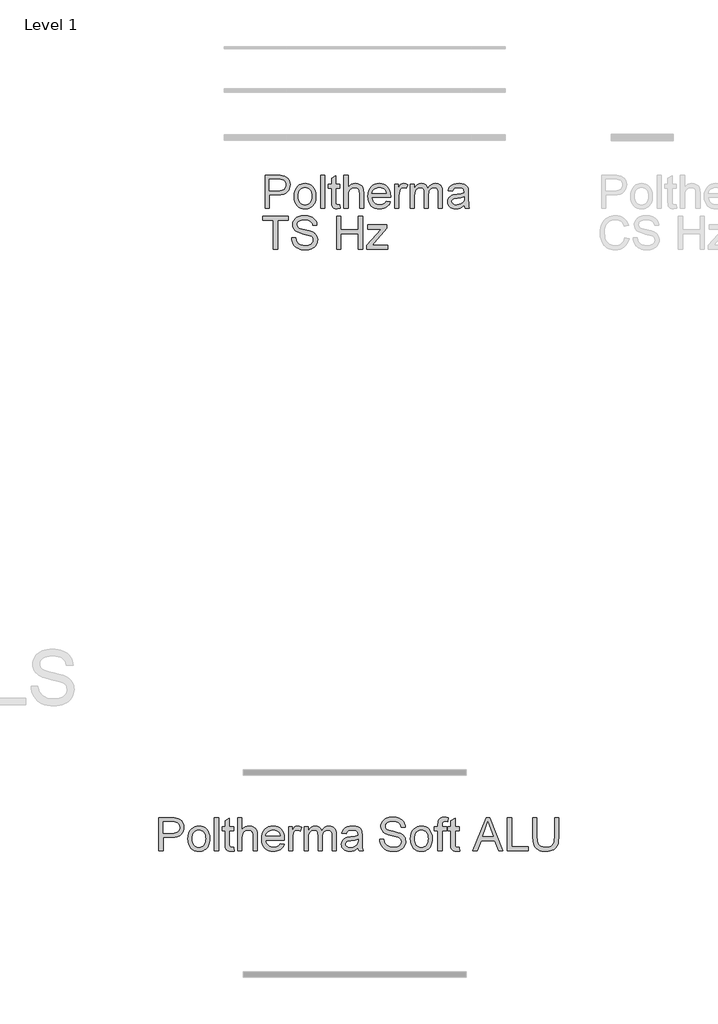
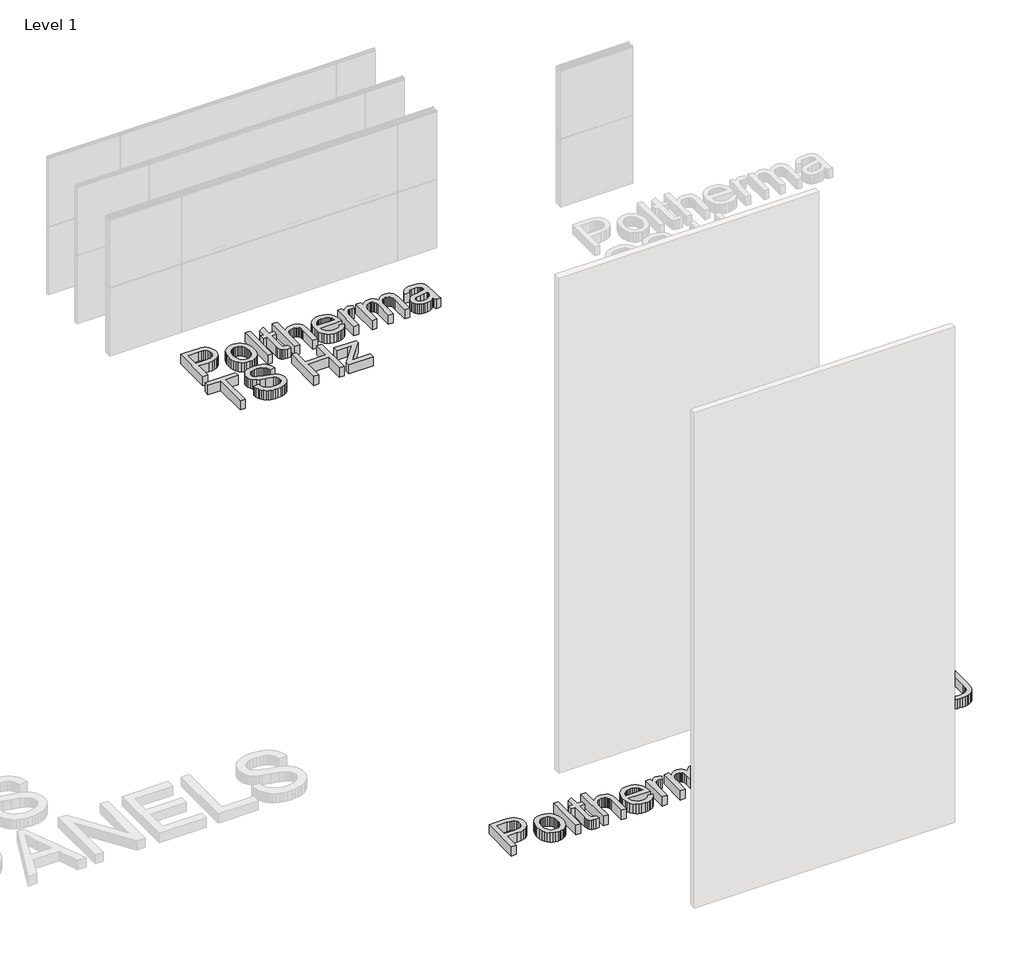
# One storey, part 10 of 27: 2 proxies.
"""IFC4 building model written with IfcOpenShell, lengths in millimetres."""

from ifc_helpers import new_model, si_unit, origin, origin_with_axes, place, context, project, spatial, polyline, outline, extrude, element, save

model = new_model("IFC4")

# Units and contexts
model_context = context("Model", 3, world=origin())
ifc_project = project(units=[si_unit("LENGTHUNIT", "METRE", prefix="MILLI")], contexts=[model_context])

# Site, building, storey
site = spatial("IfcSite", under=ifc_project)
building = spatial("IfcBuilding", under=site)
storey = spatial("IfcBuildingStorey", under=building, Name="Level 1", Elevation=0.0)

# Proxies
placement = place(None, origin())
element("IfcBuildingElementProxy", 1, Name="600mm Arial", ObjectType="600mm Arial", at=placement, inside=storey, context=model_context, shape_type="SweptSolid", body=[
    extrude(outline(polyline([(-11838.0389242, -19557.7938606), (-11838.0389242, -18967.0246299), (-11619.0966165, -18967.0246299), (-11568.1110396, -18968.4308799), (-11530.8273858, -18972.6496299), (-11491.4704146, -18983.1604472), (-11459.0725781, -19000.2698222), (-11432.9848377, -19024.7529953), (-11412.558155, -19057.3852068), (-11399.3610396, -19095.8767933), (-11394.9620011, -19137.9380914), (-11397.9322535, -19174.2031154), (-11406.8430108, -19207.5654953), (-11421.6942728, -19238.0252308), (-11442.4860396, -19265.5823222), (-11471.0302103, -19288.4248703), (-11509.1386838, -19304.740976), (-11556.8114603, -19314.5306395), (-11614.0485396, -19317.7938606), (-11764.1927704, -19317.7938606), (-11764.1927704, -19557.7938606), (-11838.0389242, -19557.7938606)]), holes=[polyline([(-11764.1927704, -19243.9477068), (-11609.7216165, -19243.9477068), (-11574.2047896, -19242.2529953), (-11544.2408473, -19237.1688606), (-11519.8297896, -19228.6953029), (-11500.9716165, -19216.8323222), (-11486.9001021, -19201.8954231), (-11476.8490204, -19184.2001106), (-11470.8183713, -19163.7463847), (-11468.808155, -19140.5342453), (-11473.5497415, -19107.3611683), (-11487.7745011, -19079.3803991), (-11509.7156069, -19058.3227068), (-11537.6062319, -19045.9188606), (-11566.0918088, -19042.1328029), (-11611.4523858, -19040.8707837), (-11764.1927704, -19040.8707837), (-11764.1927704, -19243.9477068)])]), origin_with_axes(), (0.0, 0.0, 1.0), 150.0),
    extrude(outline(polyline([(-11321.1158473, -19340.8707837), (-11317.1224579, -19284.6838847), (-11305.1422896, -19236.2674183), (-11285.1753425, -19195.6213847), (-11257.2216165, -19162.7457837), (-11229.0785877, -19141.7331635), (-11198.0148858, -19126.7241491), (-11164.0305108, -19117.7187404), (-11127.1254627, -19114.7169376), (-11086.3847776, -19118.3722861), (-11049.5473377, -19129.3383318), (-11016.613143, -19147.6150746), (-10987.5821934, -19173.2025145), (-10963.8877824, -19205.2352669), (-10946.9632031, -19242.8479472), (-10936.8084555, -19286.0405553), (-10933.4235396, -19334.8130914), (-10934.9199338, -19374.3413366), (-10939.4091165, -19409.4164568), (-10946.8910877, -19440.038452), (-10957.3658473, -19466.2073222), (-10970.7026862, -19488.810988), (-10986.7708954, -19508.7373703), (-11005.5704747, -19525.9864688), (-11027.1014242, -19540.5582837), (-11050.5254026, -19552.1373102), (-11075.0040684, -19560.4080433), (-11100.5374218, -19565.3704832), (-11127.1254627, -19567.0246299), (-11168.4610997, -19563.3828029), (-11205.6410877, -19552.4573222), (-11238.6654266, -19534.2481876), (-11267.5341165, -19508.7553991), (-11290.9761237, -19476.4116491), (-11307.7204146, -19437.6496299), (-11317.7669891, -19392.4693414), (-11321.1158473, -19340.8707837)]), holes=[polyline([(-11247.2696934, -19340.7265529), (-11245.1332752, -19376.545363), (-11238.7240204, -19407.5594856), (-11228.041929, -19433.7689207), (-11213.0870011, -19455.1736683), (-11194.8958954, -19471.8007717), (-11174.5052704, -19483.6772741), (-11151.9151261, -19490.8031755), (-11127.1254627, -19493.178476), (-11102.4620011, -19490.7896539), (-11079.9620011, -19483.6231876), (-11059.6254627, -19471.679077), (-11041.4523858, -19454.9573222), (-11026.4974579, -19433.3407356), (-11015.8153665, -19406.7121299), (-11009.4061117, -19375.0715049), (-11007.2696934, -19338.4188606), (-11009.4196333, -19303.7358678), (-11015.8694531, -19273.5330433), (-11026.6191526, -19247.8103871), (-11041.6687319, -19226.5678991), (-11059.909417, -19209.9407957), (-11080.2324338, -19198.0642933), (-11102.6377824, -19190.9383919), (-11127.1254627, -19188.5630914), (-11151.9151261, -19190.9293775), (-11174.5052704, -19198.0282356), (-11194.8958954, -19209.8596659), (-11213.0870011, -19226.4236683), (-11228.041929, -19247.765315), (-11238.7240204, -19273.9296779), (-11245.1332752, -19304.9167573), (-11247.2696934, -19340.7265529)])]), origin_with_axes(), (0.0, 0.0, 1.0), 150.0),
    extrude(outline(polyline([(-10850.3466165, -19557.7938606), (-10850.3466165, -18967.0246299), (-10776.5004627, -18967.0246299), (-10776.5004627, -19557.7938606), (-10850.3466165, -19557.7938606)])), origin_with_axes(), (0.0, 0.0, 1.0), 150.0),
    extrude(outline(polyline([(-10508.808155, -19496.2073222), (-10499.5773858, -19559.9573222), (-10554.8177704, -19567.0246299), (-10590.2624819, -19563.959726), (-10616.6927704, -19554.7650145), (-10635.370655, -19540.5943414), (-10647.558155, -19522.6015529), (-10654.2648858, -19491.7001106), (-10656.5004627, -19438.803476), (-10656.5004627, -19197.7938606), (-10711.8850781, -19197.7938606), (-10711.8850781, -19123.9477068), (-10656.5004627, -19123.9477068), (-10656.5004627, -19018.5150145), (-10582.6543088, -18975.1015529), (-10582.6543088, -19123.9477068), (-10508.808155, -19123.9477068), (-10508.808155, -19197.7938606), (-10582.6543088, -19197.7938606), (-10582.6543088, -19436.6400145), (-10578.7600781, -19474.7169376), (-10566.1398858, -19488.2025145), (-10555.4848377, -19491.9344856), (-10540.9716165, -19493.178476), (-10508.808155, -19496.2073222)])), origin_with_axes(), (0.0, 0.0, 1.0), 150.0),
    extrude(outline(polyline([(-10434.9620011, -19557.7938606), (-10434.9620011, -18967.0246299), (-10361.1158473, -18967.0246299), (-10361.1158473, -19184.2361683), (-10333.9914483, -19153.8215049), (-10303.5317127, -19132.0967453), (-10269.7366406, -19119.0618895), (-10232.6062319, -19114.7169376), (-10188.0028665, -19119.4585241), (-10149.6735396, -19133.6832837), (-10119.4932511, -19156.2734279), (-10099.3370011, -19186.1111683), (-10087.9788281, -19227.1087645), (-10084.1927704, -19283.178476), (-10084.1927704, -19557.7938606), (-10158.0389242, -19557.7938606), (-10158.0389242, -19290.8227068), (-10159.5082752, -19265.8888126), (-10163.9163281, -19244.5967453), (-10171.2630829, -19226.9465049), (-10181.5485396, -19212.9380914), (-10194.5293088, -19202.2740289), (-10209.9620011, -19194.6568414), (-10227.8466165, -19190.0865289), (-10248.183155, -19188.5630914), (-10279.3910877, -19192.6736683), (-10308.6879627, -19205.0053991), (-10332.9547896, -19224.3683799), (-10349.0725781, -19249.5727068), (-10358.10503, -19283.0703029), (-10361.1158473, -19327.3130914), (-10361.1158473, -19557.7938606), (-10434.9620011, -19557.7938606)])), origin_with_axes(), (0.0, 0.0, 1.0), 150.0),
    extrude(outline(polyline([(-9678.9043088, -19428.5630914), (-9606.5004627, -19437.7938606), (-9617.6017247, -19466.7932597), (-9632.5882031, -19492.3491491), (-9651.4598978, -19514.4615289), (-9674.2168088, -19533.1303991), (-9700.6245612, -19547.9591251), (-9730.44878, -19558.5510722), (-9763.6894651, -19564.9062404), (-9800.3466165, -19567.0246299), (-9846.166929, -19563.3692813), (-9886.9932511, -19552.4032356), (-9922.8255829, -19534.1264928), (-9953.6639242, -19508.5390529), (-9978.4626021, -19476.3530553), (-9996.1759434, -19438.2806395), (-10006.8039483, -19394.3218053), (-10010.3466165, -19344.4765529), (-10006.7678906, -19292.9410962), (-9996.0317127, -19247.5174183), (-9978.1380829, -19208.2055193), (-9953.0870011, -19175.0053991), (-9922.3297896, -19148.6291972), (-9887.3177704, -19129.7890529), (-9848.0509434, -19118.4849664), (-9804.5293088, -19114.7169376), (-9762.409417, -19118.475952), (-9724.3189723, -19129.7529953), (-9690.2579747, -19148.5480674), (-9660.2264242, -19174.8611683), (-9635.7117007, -19207.9891731), (-9618.2011838, -19247.2289568), (-9607.6948737, -19292.5805193), (-9604.1927704, -19344.0438606), (-9604.6254627, -19363.9477068), (-9936.5004627, -19363.9477068), (-9932.2231189, -19393.4158558), (-9923.7180108, -19419.2241491), (-9910.9851382, -19441.3725866), (-9894.0245011, -19459.8611683), (-9873.7735997, -19474.4374904), (-9851.1699338, -19484.8491491), (-9826.2135035, -19491.0961443), (-9798.9043088, -19493.178476), (-9759.6014242, -19489.3203029), (-9726.5004627, -19477.7457837), (-9699.6014242, -19457.7337645), (-9678.9043088, -19428.5630914)]), holes=[polyline([(-9936.5004627, -19290.1015529), (-9678.0389242, -19290.1015529), (-9688.026905, -19251.0871299), (-9696.6176502, -19235.7445818), (-9707.6062319, -19223.178476), (-9727.7444531, -19208.0342453), (-9750.6591165, -19197.2169376), (-9776.3502223, -19190.7265529), (-9804.8177704, -19188.5630914), (-9830.783816, -19190.2893534), (-9854.5954146, -19195.4681395), (-9876.252566, -19204.0994496), (-9895.7552704, -19216.1832837), (-9912.1209555, -19231.1607477), (-9924.3670492, -19248.4729472), (-9932.4935516, -19268.1198823), (-9936.5004627, -19290.1015529)])]), origin_with_axes(), (0.0, 0.0, 1.0), 150.0),
    extrude(outline(polyline([(-9530.3466165, -19557.7938606), (-9530.3466165, -19123.9477068), (-9465.7312319, -19123.9477068), (-9465.7312319, -19188.1303991), (-9441.8610396, -19150.9188606), (-9419.8658473, -19128.9957837), (-9397.7985396, -19118.2866491), (-9373.7120011, -19114.7169376), (-9336.933155, -19120.4140529), (-9299.5773858, -19137.5053991), (-9324.2408473, -19203.7073222), (-9350.2023858, -19192.3491491), (-9376.1639242, -19188.5630914), (-9398.2132031, -19192.2049183), (-9417.9187319, -19203.1303991), (-9433.8382031, -19220.5102068), (-9444.5293088, -19243.5150145), (-9453.5076742, -19284.7650145), (-9456.5004627, -19329.7650145), (-9456.5004627, -19557.7938606), (-9530.3466165, -19557.7938606)])), origin_with_axes(), (0.0, 0.0, 1.0), 150.0),
    extrude(outline(polyline([(-9253.4235396, -19557.7938606), (-9253.4235396, -19123.9477068), (-9179.5773858, -19123.9477068), (-9179.5773858, -19195.3419376), (-9157.3658473, -19162.5474664), (-9128.808155, -19136.8563606), (-9094.8778665, -19120.2517933), (-9056.5485396, -19114.7169376), (-9015.4788281, -19120.3599664), (-8997.9998617, -19127.4137525), (-8982.558155, -19137.2890529), (-8957.9668088, -19164.3864087), (-8941.8850781, -19200.5342453), (-8914.9680108, -19162.9891731), (-8884.2648858, -19136.1712645), (-8849.7757031, -19120.0805193), (-8811.5004627, -19114.7169376), (-8781.9376622, -19116.9480073), (-8755.9896454, -19123.6412164), (-8733.6564122, -19134.796565), (-8714.9379627, -19150.4140529), (-8700.1407872, -19170.6739688), (-8689.5713761, -19195.756601), (-8683.2297295, -19225.6619496), (-8681.1158473, -19260.3900145), (-8681.1158473, -19557.7938606), (-8754.9620011, -19557.7938606), (-8754.9620011, -19292.1207837), (-8756.6747415, -19255.287851), (-8761.8129627, -19230.4621299), (-8771.4403665, -19213.4609279), (-8786.620655, -19200.1015529), (-8806.1458954, -19191.4477068), (-8828.808155, -19188.5630914), (-8849.7351382, -19190.4110481), (-8868.8141646, -19195.9549183), (-8886.0452343, -19205.194702), (-8901.4283473, -19218.1303991), (-8914.0800901, -19235.1406154), (-8923.1170492, -19256.6039568), (-8928.5392247, -19282.5204231), (-8930.3466165, -19312.8900145), (-8930.3466165, -19557.7938606), (-9004.1927704, -19557.7938606), (-9004.1927704, -19283.8996299), (-9008.4656069, -19242.1448222), (-9021.2841165, -19212.3611683), (-9031.1954747, -19201.9495097), (-9043.8382031, -19194.5126106), (-9059.2123016, -19190.0504712), (-9077.3177704, -19188.5630914), (-9105.7672896, -19192.5294376), (-9131.9812319, -19204.428476), (-9153.6158473, -19223.9717453), (-9168.3273858, -19250.8707837), (-9176.7648858, -19288.1904953), (-9179.5773858, -19338.9957837), (-9179.5773858, -19557.7938606), (-9253.4235396, -19557.7938606)])), origin_with_axes(), (0.0, 0.0, 1.0), 150.0),
    extrude(outline(polyline([(-8293.4235396, -19502.4092453), (-8328.7059915, -19532.6616491), (-8365.0341165, -19552.4573222), (-8403.2372415, -19563.3828029), (-8444.1446934, -19567.0246299), (-8477.0248016, -19564.8341251), (-8505.8574338, -19558.2626106), (-8530.6425901, -19547.3100866), (-8551.3802704, -19531.9765529), (-8567.7549699, -19513.2355674), (-8579.4511838, -19492.0606876), (-8586.4689122, -19468.4519135), (-8588.808155, -19442.4092453), (-8585.2745011, -19411.7962645), (-8574.6735396, -19383.9957837), (-8558.3213761, -19360.1977068), (-8537.5341165, -19341.5919376), (-8513.10503, -19327.5294376), (-8485.8273858, -19317.3611683), (-8421.933155, -19306.2553991), (-8346.4283473, -19294.5727068), (-8293.8562319, -19280.8707837), (-8293.4235396, -19264.428476), (-8298.5076742, -19231.4717453), (-8304.8628425, -19219.2662164), (-8313.7600781, -19209.9092453), (-8329.1386838, -19200.5703029), (-8347.870655, -19193.8996299), (-8395.3946934, -19188.5630914), (-8439.3850781, -19192.1147741), (-8470.1062319, -19202.7698222), (-8491.0557511, -19222.475351), (-8505.7312319, -19253.178476), (-8579.5773858, -19243.9477068), (-8566.7588761, -19203.5630914), (-8547.6302704, -19171.8323222), (-8520.4067127, -19147.5654953), (-8483.3033473, -19129.5727068), (-8437.9247415, -19118.4308799), (-8385.8754627, -19114.7169376), (-8335.9535877, -19117.9981876), (-8296.3802704, -19127.8419376), (-8266.54253, -19142.6436203), (-8245.8273858, -19160.7986683), (-8232.089405, -19183.2445818), (-8223.183155, -19210.9188606), (-8219.5773858, -19275.5342453), (-8219.5773858, -19367.4092453), (-8215.8273858, -19495.7025145), (-8210.2745011, -19527.4152549), (-8201.1158473, -19557.7938606), (-8274.9620011, -19557.7938606), (-8286.7889242, -19532.1207837), (-8293.4235396, -19502.4092453)]), holes=[polyline([(-8293.4235396, -19354.7169376), (-8343.0389242, -19367.0126106), (-8412.558155, -19377.3611683), (-8476.0918088, -19389.3323222), (-8492.6242608, -19397.5174183), (-8504.8658473, -19408.803476), (-8512.4379627, -19422.3251106), (-8514.9620011, -19437.2169376), (-8509.4632031, -19459.1760722), (-8492.9668088, -19477.1688606), (-8465.8333954, -19489.1760722), (-8428.4235396, -19493.178476), (-8388.7600781, -19488.7614087), (-8353.7120011, -19475.5102068), (-8325.2985396, -19455.9849664), (-8305.5389242, -19432.7457837), (-8296.776905, -19408.803476), (-8293.8562319, -19375.6303991), (-8293.4235396, -19354.7169376)])]), origin_with_axes(), (0.0, 0.0, 1.0), 150.0),
    extrude(outline(polyline([(-11690.3466165, -20287.0246299), (-11690.3466165, -19770.1015529), (-11884.1927704, -19770.1015529), (-11884.1927704, -19696.2553991), (-11422.6543088, -19696.2553991), (-11422.6543088, -19770.1015529), (-11616.5004627, -19770.1015529), (-11616.5004627, -20287.0246299), (-11690.3466165, -20287.0246299)])), origin_with_axes(), (0.0, 0.0, 1.0), 150.0),
    extrude(outline(polyline([(-11367.2696934, -20083.9477068), (-11293.4235396, -20083.9477068), (-11284.9499819, -20124.9272741), (-11269.6254627, -20157.865976), (-11245.7192127, -20184.0078029), (-11211.5004627, -20204.5967453), (-11169.6735396, -20217.9561203), (-11122.9427704, -20222.4092453), (-11081.8009434, -20219.037851), (-11045.7793088, -20208.9236683), (-11016.5906069, -20192.9140529), (-10995.9475781, -20171.8563606), (-10983.6699338, -20147.6796779), (-10979.5773858, -20122.3130914), (-10982.6422896, -20097.5955433), (-10991.8370011, -20076.2313606), (-11010.5148858, -20058.0041972), (-11042.0293088, -20042.6977068), (-11149.5533473, -20014.5005914), (-11220.13628, -19995.8407356), (-11265.2985396, -19978.0823222), (-11302.0593569, -19953.2385722), (-11328.1110396, -19923.1303991), (-11343.6338761, -19888.4068414), (-11348.808155, -19849.7169376), (-11347.2080949, -19827.7262525), (-11342.4079146, -19806.4657356), (-11334.4076141, -19785.9353871), (-11323.2071934, -19766.1352068), (-11308.9328545, -19747.8719856), (-11291.7107992, -19731.9525145), (-11271.5410276, -19718.3767933), (-11248.4235396, -19707.1448222), (-11196.464405, -19692.0546779), (-11138.9523858, -19687.0246299), (-11076.6446934, -19692.2890529), (-11022.1254627, -19708.0823222), (-10998.2732992, -19719.8461443), (-10977.3418088, -19734.0799183), (-10959.3309915, -19750.7836443), (-10944.2408473, -19769.9573222), (-10932.1885636, -19791.0420578), (-10923.2913281, -19813.4789568), (-10917.5491406, -19837.2680193), (-10914.9620011, -19862.4092453), (-10988.808155, -19862.4092453), (-10993.7480588, -19838.8455433), (-11002.3658473, -19818.3467453), (-11014.6615204, -19800.912851), (-11030.6350781, -19786.5438606), (-11050.5839963, -19775.3118895), (-11074.8057511, -19767.2890529), (-11103.3003425, -19762.475351), (-11136.0677704, -19760.8707837), (-11169.8808713, -19762.4573222), (-11198.7720973, -19767.2169376), (-11222.7414483, -19775.1496299), (-11241.7889242, -19786.2553991), (-11256.3021454, -19799.6057597), (-11266.6687319, -19814.272226), (-11272.8886838, -19830.2547981), (-11274.9620011, -19847.553476), (-11269.0845973, -19875.9308799), (-11251.4523858, -19898.7553991), (-11235.2624819, -19908.9056395), (-11209.7696934, -19919.1640529), (-11130.8754627, -19940.0053991), (-11049.4571934, -19959.8010722), (-11000.2023858, -19977.0727068), (-10958.10503, -20003.8635722), (-10941.8294891, -20019.6117693), (-10928.7360396, -20036.928476), (-10918.6714362, -20055.7235481), (-10911.4824338, -20075.9068414), (-10905.7312319, -20120.4380914), (-10907.3853785, -20143.5375505), (-10912.3478184, -20165.9609279), (-10920.6185516, -20187.7082236), (-10932.1975781, -20208.7794376), (-10946.8820733, -20228.3587645), (-10964.4692127, -20245.6303991), (-10984.9589963, -20260.5943414), (-11008.3514242, -20273.2505914), (-11033.9659074, -20283.3151948), (-11061.1218569, -20290.5041972), (-11120.058155, -20296.2553991), (-11157.8330949, -20294.7049183), (-11192.4079146, -20290.053476), (-11223.7826141, -20282.3010722), (-11251.9571934, -20271.4477068), (-11277.1029266, -20257.475351), (-11299.3910877, -20240.365976), (-11318.8216766, -20220.1195818), (-11335.3946934, -20196.7361683), (-11348.745054, -20170.9729472), (-11358.5076742, -20143.5871299), (-11364.682554, -20114.5787164), (-11367.2696934, -20083.9477068)])), origin_with_axes(), (0.0, 0.0, 1.0), 150.0),
    extrude(outline(polyline([(-10564.1927704, -20287.0246299), (-10564.1927704, -19696.2553991), (-10490.3466165, -19696.2553991), (-10490.3466165, -19936.2553991), (-10176.5004627, -19936.2553991), (-10176.5004627, -19696.2553991), (-10102.6543088, -19696.2553991), (-10102.6543088, -20287.0246299), (-10176.5004627, -20287.0246299), (-10176.5004627, -20010.1015529), (-10490.3466165, -20010.1015529), (-10490.3466165, -20287.0246299), (-10564.1927704, -20287.0246299)])), origin_with_axes(), (0.0, 0.0, 1.0), 150.0),
    extrude(outline(polyline([(-10028.808155, -20287.0246299), (-10028.808155, -20217.5053991), (-9773.9523858, -19927.0246299), (-9849.3850781, -19927.0246299), (-10010.3466165, -19927.0246299), (-10010.3466165, -19853.178476), (-9668.808155, -19853.178476), (-9668.808155, -19915.9188606), (-9894.8177704, -20173.6592453), (-9929.433155, -20213.178476), (-9844.0485396, -20213.178476), (-9659.5773858, -20213.178476), (-9659.5773858, -20287.0246299), (-10028.808155, -20287.0246299)])), origin_with_axes(), (0.0, 0.0, 1.0), 150.0),
])
element("IfcBuildingElementProxy", 2, Name="600mm Arial", ObjectType="600mm Arial", at=placement, inside=storey, context=model_context, shape_type="SweptSolid", body=[
    extrude(outline(polyline([(-13728.8158486, -30994.6855299), (-13728.8158486, -30403.9162991), (-13509.8735409, -30403.9162991), (-13458.8879639, -30405.3225491), (-13421.6043101, -30409.5412991), (-13382.2473389, -30420.0521164), (-13349.8495024, -30437.1614914), (-13323.761762, -30461.6446645), (-13303.3350793, -30494.276876), (-13290.1379639, -30532.7684626), (-13285.7389255, -30574.8297606), (-13288.7091779, -30611.0947847), (-13297.6199351, -30644.4571645), (-13312.4711971, -30674.9169001), (-13333.2629639, -30702.4739914), (-13361.8071346, -30725.3165395), (-13399.9156082, -30741.6326453), (-13447.5883846, -30751.4223087), (-13504.8254639, -30754.6855299), (-13654.9696947, -30754.6855299), (-13654.9696947, -30994.6855299), (-13728.8158486, -30994.6855299)]), holes=[polyline([(-13654.9696947, -30680.839376), (-13500.4985409, -30680.839376), (-13464.9817139, -30679.1446645), (-13435.0177716, -30674.0605299), (-13410.6067139, -30665.5869722), (-13391.7485409, -30653.7239914), (-13377.6770264, -30638.7870924), (-13367.6259447, -30621.0917799), (-13361.5952957, -30600.6380539), (-13359.5850793, -30577.4259145), (-13364.3266659, -30544.2528376), (-13378.5514255, -30516.2720683), (-13400.4925312, -30495.214376), (-13428.3831562, -30482.8105299), (-13456.8687332, -30479.0244722), (-13502.2293101, -30477.762453), (-13654.9696947, -30477.762453), (-13654.9696947, -30680.839376)])]), origin_with_axes(), (0.0, 0.0, 1.0), 150.0),
    extrude(outline(polyline([(-13211.8927716, -30777.762453), (-13207.8993822, -30721.5755539), (-13195.9192139, -30673.1590876), (-13175.9522668, -30632.5130539), (-13147.9985409, -30599.637453), (-13119.855512, -30578.6248328), (-13088.7918101, -30563.6158183), (-13054.8074351, -30554.6104097), (-13017.902387, -30551.6086068), (-12977.1617019, -30555.2639554), (-12940.324262, -30566.230001), (-12907.3900673, -30584.5067438), (-12878.3591178, -30610.0941837), (-12854.6647067, -30642.1269361), (-12837.7401274, -30679.7396164), (-12827.5853798, -30722.9322246), (-12824.2004639, -30771.7047606), (-12825.6968582, -30811.2330058), (-12830.1860409, -30846.308126), (-12837.668012, -30876.9301212), (-12848.1427716, -30903.0989914), (-12861.4796106, -30925.7026573), (-12877.5478197, -30945.6290395), (-12896.347399, -30962.8781381), (-12917.8783486, -30977.449953), (-12941.3023269, -30989.0289794), (-12965.7809928, -30997.2997126), (-12991.3143461, -31002.2621525), (-13017.902387, -31003.9162991), (-13059.238024, -31000.2744722), (-13096.418012, -30989.3489914), (-13129.442351, -30971.1398568), (-13158.3110409, -30945.6470683), (-13181.7530481, -30913.3033183), (-13198.4973389, -30874.5412991), (-13208.5439135, -30829.3610106), (-13211.8927716, -30777.762453)]), holes=[polyline([(-13138.0466178, -30777.6182222), (-13135.9101995, -30813.4370323), (-13129.5009447, -30844.4511549), (-13118.8188534, -30870.66059), (-13103.8639255, -30892.0653376), (-13085.6728197, -30908.6924409), (-13065.2821947, -30920.5689433), (-13042.6920505, -30927.6948448), (-13017.902387, -30930.0701453), (-12993.2389255, -30927.6813231), (-12970.7389255, -30920.5148568), (-12950.402387, -30908.5707462), (-12932.2293101, -30891.8489914), (-12917.2743822, -30870.2324049), (-12906.5922909, -30843.6037991), (-12900.1830361, -30811.9631741), (-12898.0466178, -30775.3105299), (-12900.1965577, -30740.6275371), (-12906.6463774, -30710.4247126), (-12917.3960769, -30684.7020563), (-12932.4456562, -30663.4595683), (-12950.6863413, -30646.832465), (-12971.0093582, -30634.9559626), (-12993.4147067, -30627.8300611), (-13017.902387, -30625.4547606), (-13042.6920505, -30627.8210467), (-13065.2821947, -30634.9199049), (-13085.6728197, -30646.7513352), (-13103.8639255, -30663.3153376), (-13118.8188534, -30684.6569842), (-13129.5009447, -30710.8213472), (-13135.9101995, -30741.8084265), (-13138.0466178, -30777.6182222)])]), origin_with_axes(), (0.0, 0.0, 1.0), 150.0),
    extrude(outline(polyline([(-12741.1235409, -30994.6855299), (-12741.1235409, -30403.9162991), (-12667.277387, -30403.9162991), (-12667.277387, -30994.6855299), (-12741.1235409, -30994.6855299)])), origin_with_axes(), (0.0, 0.0, 1.0), 150.0),
    extrude(outline(polyline([(-12399.5850793, -30933.0989914), (-12390.3543101, -30996.8489914), (-12445.5946947, -31003.9162991), (-12481.0394062, -31000.8513953), (-12507.4696947, -30991.6566837), (-12526.1475793, -30977.4860106), (-12538.3350793, -30959.4932222), (-12545.0418101, -30928.5917799), (-12547.277387, -30875.6951453), (-12547.277387, -30634.6855299), (-12602.6620024, -30634.6855299), (-12602.6620024, -30560.839376), (-12547.277387, -30560.839376), (-12547.277387, -30455.4066837), (-12473.4312332, -30411.9932222), (-12473.4312332, -30560.839376), (-12399.5850793, -30560.839376), (-12399.5850793, -30634.6855299), (-12473.4312332, -30634.6855299), (-12473.4312332, -30873.5316837), (-12469.5370024, -30911.6086068), (-12456.9168101, -30925.0941837), (-12446.261762, -30928.8261549), (-12431.7485409, -30930.0701453), (-12399.5850793, -30933.0989914)])), origin_with_axes(), (0.0, 0.0, 1.0), 150.0),
    extrude(outline(polyline([(-12325.7389255, -30994.6855299), (-12325.7389255, -30403.9162991), (-12251.8927716, -30403.9162991), (-12251.8927716, -30621.1278376), (-12224.7683726, -30590.7131741), (-12194.308637, -30568.9884145), (-12160.5135649, -30555.9535587), (-12123.3831562, -30551.6086068), (-12078.7797909, -30556.3501933), (-12040.4504639, -30570.574953), (-12010.2701755, -30593.1650972), (-11990.1139255, -30623.0028376), (-11978.7557524, -30664.0004337), (-11974.9696947, -30720.0701453), (-11974.9696947, -30994.6855299), (-12048.8158486, -30994.6855299), (-12048.8158486, -30727.714376), (-12050.2851995, -30702.7804818), (-12054.6932524, -30681.4884145), (-12062.0400072, -30663.8381741), (-12072.3254639, -30649.8297606), (-12085.3062332, -30639.1656981), (-12100.7389255, -30631.5485106), (-12118.6235409, -30626.9781981), (-12138.9600793, -30625.4547606), (-12170.168012, -30629.5653376), (-12199.464887, -30641.8970683), (-12223.7317139, -30661.2600491), (-12239.8495024, -30686.464376), (-12248.8819543, -30719.9619722), (-12251.8927716, -30764.2047606), (-12251.8927716, -30994.6855299), (-12325.7389255, -30994.6855299)])), origin_with_axes(), (0.0, 0.0, 1.0), 150.0),
    extrude(outline(polyline([(-11569.6812332, -30865.4547606), (-11497.277387, -30874.6855299), (-11508.378649, -30903.6849289), (-11523.3651274, -30929.2408183), (-11542.2368221, -30951.3531981), (-11564.9937332, -30970.0220683), (-11591.4014856, -30984.8507943), (-11621.2257043, -30995.4427414), (-11654.4663894, -31001.7979097), (-11691.1235409, -31003.9162991), (-11736.9438534, -31000.2609506), (-11777.7701755, -30989.2949049), (-11813.6025072, -30971.0181621), (-11844.4408486, -30945.4307222), (-11869.2395264, -30913.2447246), (-11886.9528678, -30875.1723087), (-11897.5808726, -30831.2134746), (-11901.1235409, -30781.3682222), (-11897.5448149, -30729.8327655), (-11886.808637, -30684.4090876), (-11868.9150072, -30645.0971885), (-11843.8639255, -30611.8970683), (-11813.1067139, -30585.5208664), (-11778.0946947, -30566.6807222), (-11738.8278678, -30555.3766356), (-11695.3062332, -30551.6086068), (-11653.1863413, -30555.3676212), (-11615.0958966, -30566.6446645), (-11581.034899, -30585.4397366), (-11551.0033486, -30611.7528376), (-11526.488625, -30644.8808424), (-11508.9781082, -30684.120626), (-11498.4717981, -30729.4721885), (-11494.9696947, -30780.9355299), (-11495.402387, -30800.839376), (-11827.277387, -30800.839376), (-11823.0000433, -30830.3075251), (-11814.4949351, -30856.1158183), (-11801.7620625, -30878.2642558), (-11784.8014255, -30896.7528376), (-11764.550524, -30911.3291597), (-11741.9468582, -30921.7408183), (-11716.9904279, -30927.9878135), (-11689.6812332, -30930.0701453), (-11650.3783486, -30926.2119722), (-11617.277387, -30914.637453), (-11590.3783486, -30894.6254337), (-11569.6812332, -30865.4547606)]), holes=[polyline([(-11827.277387, -30726.9932222), (-11568.8158486, -30726.9932222), (-11578.8038293, -30687.9787991), (-11587.3945745, -30672.636251), (-11598.3831562, -30660.0701453), (-11618.5213774, -30644.9259145), (-11641.4360409, -30634.1086068), (-11667.1271466, -30627.6182222), (-11695.5946947, -30625.4547606), (-11721.5607404, -30627.1810227), (-11745.3723389, -30632.3598087), (-11767.0294904, -30640.9911188), (-11786.5321947, -30653.074953), (-11802.8978798, -30668.0524169), (-11815.1439736, -30685.3646164), (-11823.270476, -30705.0115515), (-11827.277387, -30726.9932222)])]), origin_with_axes(), (0.0, 0.0, 1.0), 150.0),
    extrude(outline(polyline([(-11421.1235409, -30994.6855299), (-11421.1235409, -30560.839376), (-11356.5081562, -30560.839376), (-11356.5081562, -30625.0220683), (-11332.6379639, -30587.8105299), (-11310.6427716, -30565.887453), (-11288.5754639, -30555.1783183), (-11264.4889255, -30551.6086068), (-11227.7100793, -30557.3057222), (-11190.3543101, -30574.3970683), (-11215.0177716, -30640.5989914), (-11240.9793101, -30629.2408183), (-11266.9408486, -30625.4547606), (-11288.9901274, -30629.0965876), (-11308.6956562, -30640.0220683), (-11324.6151274, -30657.401876), (-11335.3062332, -30680.4066837), (-11344.2845986, -30721.6566837), (-11347.277387, -30766.6566837), (-11347.277387, -30994.6855299), (-11421.1235409, -30994.6855299)])), origin_with_axes(), (0.0, 0.0, 1.0), 150.0),
    extrude(outline(polyline([(-11144.2004639, -30994.6855299), (-11144.2004639, -30560.839376), (-11070.3543101, -30560.839376), (-11070.3543101, -30632.2336068), (-11048.1427716, -30599.4391356), (-11019.5850793, -30573.7480299), (-10985.6547909, -30557.1434626), (-10947.3254639, -30551.6086068), (-10906.2557524, -30557.2516356), (-10888.7767861, -30564.3054217), (-10873.3350793, -30574.1807222), (-10848.7437332, -30601.278078), (-10832.6620024, -30637.4259145), (-10805.7449351, -30599.8808424), (-10775.0418101, -30573.0629337), (-10740.5526274, -30556.9721885), (-10702.277387, -30551.6086068), (-10672.7145865, -30553.8396765), (-10646.7665697, -30560.5328856), (-10624.4333365, -30571.6882342), (-10605.714887, -30587.3057222), (-10590.9177115, -30607.5656381), (-10580.3483005, -30632.6482703), (-10574.0066538, -30662.5536188), (-10571.8927716, -30697.2816837), (-10571.8927716, -30994.6855299), (-10645.7389255, -30994.6855299), (-10645.7389255, -30729.012453), (-10647.4516659, -30692.1795203), (-10652.589887, -30667.3537991), (-10662.2172909, -30650.3525972), (-10677.3975793, -30636.9932222), (-10696.9228197, -30628.339376), (-10719.5850793, -30625.4547606), (-10740.5120625, -30627.3027174), (-10759.5910889, -30632.8465876), (-10776.8221586, -30642.0863712), (-10792.2052716, -30655.0220683), (-10804.8570144, -30672.0322847), (-10813.8939736, -30693.495626), (-10819.316149, -30719.4120924), (-10821.1235409, -30749.7816837), (-10821.1235409, -30994.6855299), (-10894.9696947, -30994.6855299), (-10894.9696947, -30720.7912991), (-10899.2425312, -30679.0364914), (-10912.0610409, -30649.2528376), (-10921.972399, -30638.8411789), (-10934.6151274, -30631.4042799), (-10949.989226, -30626.9421405), (-10968.0946947, -30625.4547606), (-10996.5442139, -30629.4211068), (-11022.7581562, -30641.3201453), (-11044.3927716, -30660.8634145), (-11059.1043101, -30687.762453), (-11067.5418101, -30725.0821645), (-11070.3543101, -30775.887453), (-11070.3543101, -30994.6855299), (-11144.2004639, -30994.6855299)])), origin_with_axes(), (0.0, 0.0, 1.0), 150.0),
    extrude(outline(polyline([(-10184.2004639, -30939.3009145), (-10219.4829159, -30969.5533183), (-10255.8110409, -30989.3489914), (-10294.0141659, -31000.2744722), (-10334.9216178, -31003.9162991), (-10367.801726, -31001.7257943), (-10396.6343582, -30995.1542799), (-10421.4195144, -30984.2017558), (-10442.1571947, -30968.8682222), (-10458.5318942, -30950.1272366), (-10470.2281082, -30928.9523568), (-10477.2458365, -30905.3435828), (-10479.5850793, -30879.3009145), (-10476.0514255, -30848.6879337), (-10465.4504639, -30820.887453), (-10449.0983005, -30797.089376), (-10428.3110409, -30778.4836068), (-10403.8819543, -30764.4211068), (-10376.6043101, -30754.2528376), (-10312.7100793, -30743.1470683), (-10237.2052716, -30731.464376), (-10184.6331562, -30717.762453), (-10184.2004639, -30701.3201453), (-10189.2845986, -30668.3634145), (-10195.6397668, -30656.1578856), (-10204.5370024, -30646.8009145), (-10219.9156082, -30637.4619722), (-10238.6475793, -30630.7912991), (-10286.1716178, -30625.4547606), (-10330.1620024, -30629.0064433), (-10360.8831562, -30639.6614914), (-10381.8326755, -30659.3670203), (-10396.5081562, -30690.0701453), (-10470.3543101, -30680.839376), (-10457.5358005, -30640.4547606), (-10438.4071947, -30608.7239914), (-10411.183637, -30584.4571645), (-10374.0802716, -30566.464376), (-10328.7016659, -30555.3225491), (-10276.652387, -30551.6086068), (-10226.730512, -30554.8898568), (-10187.1571947, -30564.7336068), (-10157.3194543, -30579.5352895), (-10136.6043101, -30597.6903376), (-10122.8663293, -30620.136251), (-10113.9600793, -30647.8105299), (-10110.3543101, -30712.4259145), (-10110.3543101, -30804.3009145), (-10106.6043101, -30932.5941837), (-10101.0514255, -30964.3069241), (-10091.8927716, -30994.6855299), (-10165.7389255, -30994.6855299), (-10177.5658486, -30969.012453), (-10184.2004639, -30939.3009145)]), holes=[polyline([(-10184.2004639, -30791.6086068), (-10233.8158486, -30803.9042799), (-10303.3350793, -30814.2528376), (-10366.8687332, -30826.2239914), (-10383.4011851, -30834.4090876), (-10395.6427716, -30845.6951453), (-10403.214887, -30859.2167799), (-10405.7389255, -30874.1086068), (-10400.2401274, -30896.0677414), (-10383.7437332, -30914.0605299), (-10356.6103197, -30926.0677414), (-10319.2004639, -30930.0701453), (-10279.5370024, -30925.653078), (-10244.4889255, -30912.401876), (-10216.0754639, -30892.8766356), (-10196.3158486, -30869.637453), (-10187.5538293, -30845.6951453), (-10184.6331562, -30812.5220683), (-10184.2004639, -30791.6086068)])]), origin_with_axes(), (0.0, 0.0, 1.0), 150.0),
    extrude(outline(polyline([(-9796.5081562, -30791.6086068), (-9722.6620024, -30791.6086068), (-9714.1884447, -30832.5881741), (-9698.8639255, -30865.526876), (-9674.9576755, -30891.668703), (-9640.7389255, -30912.2576453), (-9598.9120024, -30925.6170203), (-9552.1812332, -30930.0701453), (-9511.0394062, -30926.698751), (-9475.0177716, -30916.5845683), (-9445.8290697, -30900.574953), (-9425.1860409, -30879.5172606), (-9412.9083966, -30855.340578), (-9408.8158486, -30829.9739914), (-9411.8807524, -30805.2564433), (-9421.0754639, -30783.8922606), (-9439.7533486, -30765.6650972), (-9471.2677716, -30750.3586068), (-9578.7918101, -30722.1614914), (-9649.3747428, -30703.5016356), (-9694.5370024, -30685.7432222), (-9731.2978197, -30660.8994722), (-9757.3495024, -30630.7912991), (-9772.8723389, -30596.0677414), (-9778.0466178, -30557.3778376), (-9776.4465577, -30535.3871525), (-9771.6463774, -30514.1266356), (-9763.6460769, -30493.5962871), (-9752.4456562, -30473.7961068), (-9738.1713173, -30455.5328856), (-9720.949262, -30439.6134145), (-9700.7794904, -30426.0376933), (-9677.6620024, -30414.8057222), (-9625.7028678, -30399.715578), (-9568.1908486, -30394.6855299), (-9505.8831562, -30399.949953), (-9451.3639255, -30415.7432222), (-9427.511762, -30427.5070443), (-9406.5802716, -30441.7408183), (-9388.5694543, -30458.4445443), (-9373.4793101, -30477.6182222), (-9361.4270264, -30498.7029578), (-9352.5297909, -30521.1398568), (-9346.7876034, -30544.9289193), (-9344.2004639, -30570.0701453), (-9418.0466178, -30570.0701453), (-9422.9865216, -30546.5064433), (-9431.6043101, -30526.0076453), (-9443.8999832, -30508.573751), (-9459.8735409, -30494.2047606), (-9479.8224591, -30482.9727895), (-9504.0442139, -30474.949953), (-9532.5388053, -30470.136251), (-9565.3062332, -30468.5316837), (-9599.1193341, -30470.1182222), (-9628.0105601, -30474.8778376), (-9651.9799111, -30482.8105299), (-9671.027387, -30493.9162991), (-9685.5406082, -30507.2666597), (-9695.9071947, -30521.933126), (-9702.1271466, -30537.9156981), (-9704.2004639, -30555.214376), (-9698.3230601, -30583.5917799), (-9680.6908486, -30606.4162991), (-9664.5009447, -30616.5665395), (-9639.0081562, -30626.824953), (-9560.1139255, -30647.6662991), (-9478.6956562, -30667.4619722), (-9429.4408486, -30684.7336068), (-9387.3434928, -30711.5244722), (-9371.0679519, -30727.2726693), (-9357.9745024, -30744.589376), (-9347.909899, -30763.3844481), (-9340.7208966, -30783.5677414), (-9334.9696947, -30828.0989914), (-9336.6238413, -30851.1984506), (-9341.5862812, -30873.621828), (-9349.8570144, -30895.3691236), (-9361.4360409, -30916.4403376), (-9376.1205361, -30936.0196645), (-9393.7076755, -30953.2912991), (-9414.1974591, -30968.2552414), (-9437.589887, -30980.9114914), (-9463.2043702, -30990.9760948), (-9490.3603197, -30998.1650972), (-9549.2966178, -31003.9162991), (-9587.0715577, -31002.3658183), (-9621.6463774, -30997.714376), (-9653.0210769, -30989.9619722), (-9681.1956562, -30979.1086068), (-9706.3413894, -30965.136251), (-9728.6295505, -30948.026876), (-9748.0601394, -30927.7804818), (-9764.6331562, -30904.3970683), (-9777.9835168, -30878.6338472), (-9787.746137, -30851.2480299), (-9793.9210168, -30822.2396164), (-9796.5081562, -30791.6086068)])), origin_with_axes(), (0.0, 0.0, 1.0), 150.0),
    extrude(outline(polyline([(-9251.8927716, -30777.762453), (-9247.8993822, -30721.5755539), (-9235.9192139, -30673.1590876), (-9215.9522668, -30632.5130539), (-9187.9985409, -30599.637453), (-9159.855512, -30578.6248328), (-9128.7918101, -30563.6158183), (-9094.8074351, -30554.6104097), (-9057.902387, -30551.6086068), (-9017.1617019, -30555.2639554), (-8980.324262, -30566.230001), (-8947.3900673, -30584.5067438), (-8918.3591178, -30610.0941837), (-8894.6647067, -30642.1269361), (-8877.7401274, -30679.7396164), (-8867.5853798, -30722.9322246), (-8864.2004639, -30771.7047606), (-8865.6968582, -30811.2330058), (-8870.1860409, -30846.308126), (-8877.668012, -30876.9301212), (-8888.1427716, -30903.0989914), (-8901.4796106, -30925.7026573), (-8917.5478197, -30945.6290395), (-8936.347399, -30962.8781381), (-8957.8783486, -30977.449953), (-8981.3023269, -30989.0289794), (-9005.7809928, -30997.2997126), (-9031.3143461, -31002.2621525), (-9057.902387, -31003.9162991), (-9099.238024, -31000.2744722), (-9136.418012, -30989.3489914), (-9169.442351, -30971.1398568), (-9198.3110409, -30945.6470683), (-9221.7530481, -30913.3033183), (-9238.4973389, -30874.5412991), (-9248.5439135, -30829.3610106), (-9251.8927716, -30777.762453)]), holes=[polyline([(-9178.0466178, -30777.6182222), (-9175.9101995, -30813.4370323), (-9169.5009447, -30844.4511549), (-9158.8188534, -30870.66059), (-9143.8639255, -30892.0653376), (-9125.6728197, -30908.6924409), (-9105.2821947, -30920.5689433), (-9082.6920505, -30927.6948448), (-9057.902387, -30930.0701453), (-9033.2389255, -30927.6813231), (-9010.7389255, -30920.5148568), (-8990.402387, -30908.5707462), (-8972.2293101, -30891.8489914), (-8957.2743822, -30870.2324049), (-8946.5922909, -30843.6037991), (-8940.1830361, -30811.9631741), (-8938.0466178, -30775.3105299), (-8940.1965577, -30740.6275371), (-8946.6463774, -30710.4247126), (-8957.3960769, -30684.7020563), (-8972.4456562, -30663.4595683), (-8990.6863413, -30646.832465), (-9011.0093582, -30634.9559626), (-9033.4147067, -30627.8300611), (-9057.902387, -30625.4547606), (-9082.6920505, -30627.8210467), (-9105.2821947, -30634.9199049), (-9125.6728197, -30646.7513352), (-9143.8639255, -30663.3153376), (-9158.8188534, -30684.6569842), (-9169.5009447, -30710.8213472), (-9175.9101995, -30741.8084265), (-9178.0466178, -30777.6182222)])]), origin_with_axes(), (0.0, 0.0, 1.0), 150.0),
    extrude(outline(polyline([(-8762.6620024, -30994.6855299), (-8762.6620024, -30634.6855299), (-8827.277387, -30634.6855299), (-8827.277387, -30560.839376), (-8762.6620024, -30560.839376), (-8762.6620024, -30517.137453), (-8760.714887, -30480.9715876), (-8754.8735409, -30455.5509145), (-8740.0177716, -30430.995626), (-8717.0850793, -30411.5605299), (-8684.9937332, -30398.9042799), (-8642.6620024, -30394.6855299), (-8610.6067139, -30396.7047606), (-8575.3062332, -30402.762453), (-8586.1235409, -30471.9932222), (-8628.6716178, -30468.5316837), (-8656.7425312, -30471.5965876), (-8675.1860409, -30480.7912991), (-8685.4083966, -30498.3513953), (-8688.8158486, -30526.512453), (-8688.8158486, -30560.839376), (-8605.7389255, -30560.839376), (-8605.7389255, -30634.6855299), (-8688.8158486, -30634.6855299), (-8688.8158486, -30994.6855299), (-8762.6620024, -30994.6855299)])), origin_with_axes(), (0.0, 0.0, 1.0), 150.0),
    extrude(outline(polyline([(-8384.2004639, -30933.0989914), (-8374.9696947, -30996.8489914), (-8430.2100793, -31003.9162991), (-8465.6547909, -31000.8513953), (-8492.0850793, -30991.6566837), (-8510.7629639, -30977.4860106), (-8522.9504639, -30959.4932222), (-8529.6571947, -30928.5917799), (-8531.8927716, -30875.6951453), (-8531.8927716, -30634.6855299), (-8587.277387, -30634.6855299), (-8587.277387, -30560.839376), (-8531.8927716, -30560.839376), (-8531.8927716, -30455.4066837), (-8458.0466178, -30411.9932222), (-8458.0466178, -30560.839376), (-8384.2004639, -30560.839376), (-8384.2004639, -30634.6855299), (-8458.0466178, -30634.6855299), (-8458.0466178, -30873.5316837), (-8454.152387, -30911.6086068), (-8441.5321947, -30925.0941837), (-8430.8771466, -30928.8261549), (-8416.3639255, -30930.0701453), (-8384.2004639, -30933.0989914)])), origin_with_axes(), (0.0, 0.0, 1.0), 150.0),
    extrude(outline(polyline([(-8139.152387, -30994.6855299), (-7903.3350793, -30403.9162991), (-7840.4504639, -30403.9162991), (-7604.6331562, -30994.6855299), (-7682.6620024, -30994.6855299), (-7750.3062332, -30810.0701453), (-7993.6235409, -30810.0701453), (-8061.1235409, -30994.6855299), (-8139.152387, -30994.6855299)]), holes=[polyline([(-7966.5081562, -30736.2239914), (-7777.277387, -30736.2239914), (-7830.4985409, -30590.9836068), (-7871.8927716, -30477.762453), (-7908.6716178, -30578.2912991), (-7966.5081562, -30736.2239914)])]), origin_with_axes(), (0.0, 0.0, 1.0), 150.0),
    extrude(outline(polyline([(-7525.7389255, -30994.6855299), (-7525.7389255, -30403.9162991), (-7451.8927716, -30403.9162991), (-7451.8927716, -30920.839376), (-7156.5081562, -30920.839376), (-7156.5081562, -30994.6855299), (-7525.7389255, -30994.6855299)])), origin_with_axes(), (0.0, 0.0, 1.0), 150.0),
    extrude(outline(polyline([(-6685.7389255, -30403.9162991), (-6611.8927716, -30403.9162991), (-6611.8927716, -30744.7336068), (-6616.9047909, -30824.5473087), (-6623.1698149, -30857.5716477), (-6631.9408486, -30886.0076453), (-6643.9751034, -30910.9325251), (-6660.0297909, -30933.4235106), (-6680.1049111, -30953.480602), (-6704.2004639, -30971.1037991), (-6732.3434928, -30985.4592679), (-6764.5610409, -30995.7131741), (-6800.8531082, -31001.8655179), (-6841.2196947, -31003.9162991), (-6880.5901875, -31002.1314433), (-6916.2016659, -30996.776876), (-6948.0541298, -30987.8525972), (-6976.1475793, -30975.3586068), (-7000.4865216, -30959.4797006), (-7021.0754639, -30940.4006741), (-7037.9144062, -30918.1215275), (-7051.0033486, -30892.6422606), (-7060.8155481, -30863.0884746), (-7067.824262, -30828.5857703), (-7073.4312332, -30744.7336068), (-7073.4312332, -30403.9162991), (-6999.5850793, -30403.9162991), (-6999.5850793, -30742.137453), (-6995.9432524, -30808.5016356), (-6985.0177716, -30854.7095683), (-6976.4270264, -30871.7423207), (-6965.2220986, -30886.7107703), (-6951.402988, -30899.6149169), (-6934.9696947, -30910.4547606), (-6895.5225793, -30925.1662991), (-6848.1427716, -30930.0701453), (-6807.4426514, -30927.6452655), (-6773.0345986, -30920.370626), (-6744.918613, -30908.246227), (-6723.0946947, -30891.2720683), (-6706.7515457, -30867.401876), (-6695.0778678, -30834.589376), (-6688.0736611, -30792.8345683), (-6685.7389255, -30742.137453), (-6685.7389255, -30403.9162991)])), origin_with_axes(), (0.0, 0.0, 1.0), 150.0),
])

save(model, "model.ifc")
